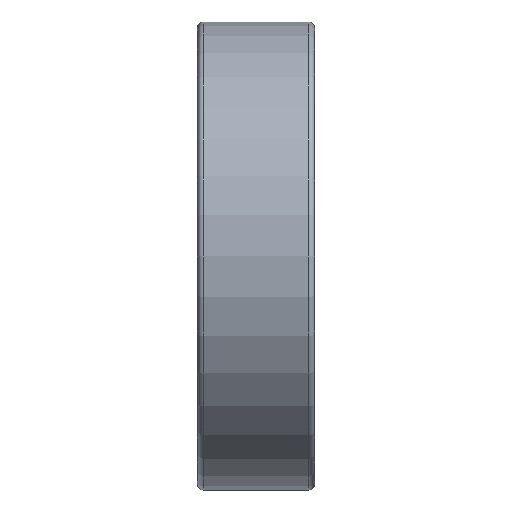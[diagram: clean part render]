
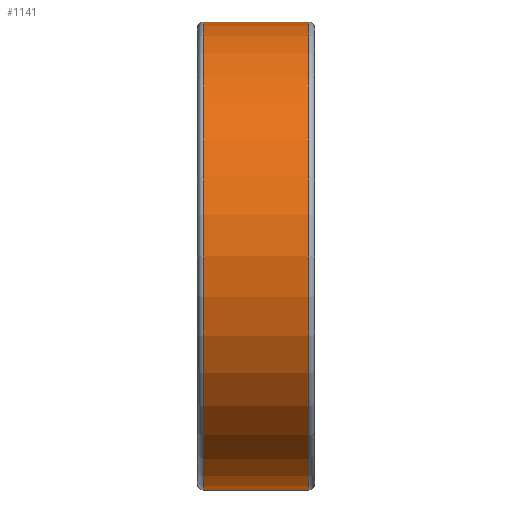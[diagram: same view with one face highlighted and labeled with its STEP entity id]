
A CAD part, front view. The second image highlights one B-rep face of the part: STEP entity #1141.
In plain terms, the highlighted cylindrical face has radius 12 mm (diameter 24 mm), a full revolution.
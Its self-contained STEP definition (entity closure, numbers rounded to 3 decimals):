
#192=CYLINDRICAL_SURFACE($,#1327,12.);
#207=FACE_BOUND($,#352,.T.);
#274=FACE_OUTER_BOUND($,#351,.T.);
#351=EDGE_LOOP($,(#1061));
#352=EDGE_LOOP($,(#1062));
#470=CIRCLE($,#1325,12.);
#472=CIRCLE($,#1328,12.);
#584=VERTEX_POINT($,#2994);
#586=VERTEX_POINT($,#2999);
#745=EDGE_CURVE($,#584,#584,#470,.T.);
#747=EDGE_CURVE($,#586,#586,#472,.T.);
#1061=ORIENTED_EDGE($,*,*,#747,.F.);
#1062=ORIENTED_EDGE($,*,*,#745,.T.);
#1141=ADVANCED_FACE($,(#274,#207),#192,.T.);
#1325=AXIS2_PLACEMENT_3D($,#2995,#1695,#1696);
#1327=AXIS2_PLACEMENT_3D($,#2998,#1699,#1700);
#1328=AXIS2_PLACEMENT_3D($,#3000,#1701,#1702);
#1695=DIRECTION('center_axis',(1.,0.,0.));
#1696=DIRECTION('ref_axis',(0.,0.,-1.));
#1699=DIRECTION('center_axis',(1.,0.,0.));
#1700=DIRECTION('ref_axis',(0.,1.,0.));
#1701=DIRECTION('center_axis',(1.,0.,0.));
#1702=DIRECTION('ref_axis',(0.,0.,-1.));
#2994=CARTESIAN_POINT('',(-2.7,12.,0.));
#2995=CARTESIAN_POINT('Origin',(-2.7,0.,0.));
#2998=CARTESIAN_POINT('Origin',(0.,0.,0.));
#2999=CARTESIAN_POINT('',(2.7,12.,0.));
#3000=CARTESIAN_POINT('Origin',(2.7,0.,0.));
